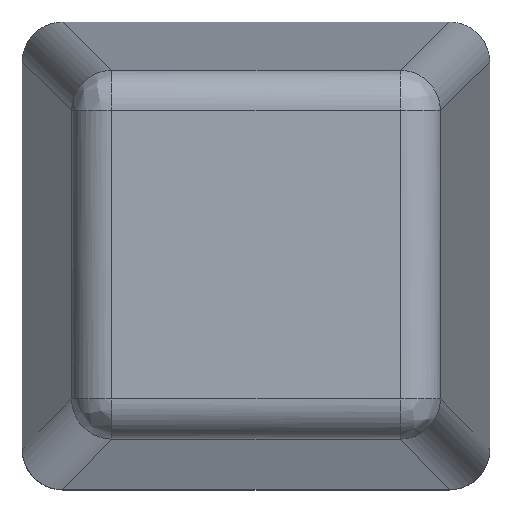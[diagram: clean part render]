
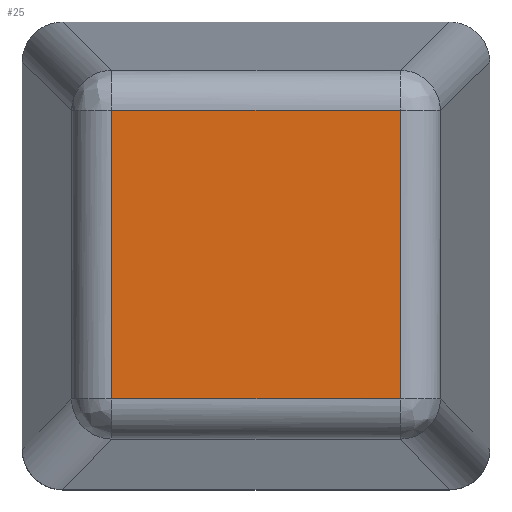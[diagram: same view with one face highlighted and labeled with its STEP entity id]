
A CAD part, top view. The second image highlights one B-rep face of the part: STEP entity #25.
In plain terms, the highlighted planar face has unit normal (0, 0, 1).
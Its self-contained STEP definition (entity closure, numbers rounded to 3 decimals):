
#25=ADVANCED_FACE('',(#64),#607,.T.);
#64=FACE_OUTER_BOUND('',#104,.T.);
#104=EDGE_LOOP('',(#186,#187,#188,#189));
#186=ORIENTED_EDGE('',*,*,#356,.F.);
#187=ORIENTED_EDGE('',*,*,#355,.F.);
#188=ORIENTED_EDGE('',*,*,#357,.F.);
#189=ORIENTED_EDGE('',*,*,#354,.F.);
#354=EDGE_CURVE('',#558,#559,#486,.T.);
#355=EDGE_CURVE('',#560,#561,#487,.T.);
#356=EDGE_CURVE('',#561,#558,#488,.T.);
#357=EDGE_CURVE('',#559,#560,#489,.T.);
#486=B_SPLINE_CURVE_WITH_KNOTS('',1,(#948,#949),.UNSPECIFIED.,.F.,.F.,(2,
2),(0.461,4.039),.UNSPECIFIED.);
#487=B_SPLINE_CURVE_WITH_KNOTS('',1,(#950,#951),.UNSPECIFIED.,.F.,.F.,(2,
2),(0.461,4.039),.UNSPECIFIED.);
#488=B_SPLINE_CURVE_WITH_KNOTS('',1,(#952,#953),.UNSPECIFIED.,.F.,.F.,(2,
2),(0.461,4.039),.UNSPECIFIED.);
#489=B_SPLINE_CURVE_WITH_KNOTS('',1,(#954,#955),.UNSPECIFIED.,.F.,.F.,(2,
2),(0.461,4.039),.UNSPECIFIED.);
#558=VERTEX_POINT('',#864);
#559=VERTEX_POINT('',#865);
#560=VERTEX_POINT('',#866);
#561=VERTEX_POINT('',#867);
#607=PLANE('',#650);
#650=AXIS2_PLACEMENT_3D('',#710,#672,$);
#672=DIRECTION('',(0.,0.,1.));
#710=CARTESIAN_POINT('',(-2.25,2.25,11.));
#864=CARTESIAN_POINT('',(-1.789,-1.789,11.));
#865=CARTESIAN_POINT('',(-1.789,1.789,11.));
#866=CARTESIAN_POINT('',(1.789,1.789,11.));
#867=CARTESIAN_POINT('',(1.789,-1.789,11.));
#948=CARTESIAN_POINT('',(-1.789,-1.789,11.));
#949=CARTESIAN_POINT('',(-1.789,1.789,11.));
#950=CARTESIAN_POINT('',(1.789,1.789,11.));
#951=CARTESIAN_POINT('',(1.789,-1.789,11.));
#952=CARTESIAN_POINT('',(1.789,-1.789,11.));
#953=CARTESIAN_POINT('',(-1.789,-1.789,11.));
#954=CARTESIAN_POINT('',(-1.789,1.789,11.));
#955=CARTESIAN_POINT('',(1.789,1.789,11.));
